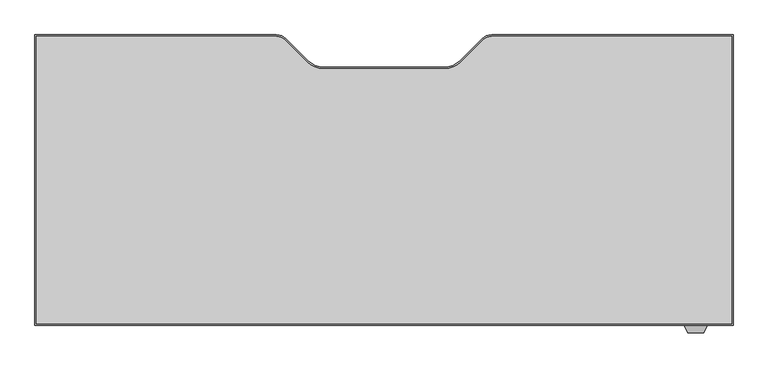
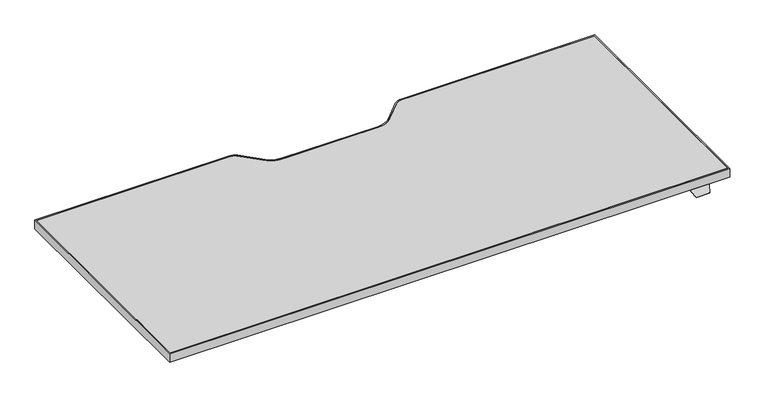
"""IFC4 building model written with IfcOpenShell, lengths in millimetres: furniture geometry, Steelcase Turnstone - Bivi - Height Adjustable Desk - T Base : 25D x 60W."""

from ifc_helpers import new_model, si_unit, point, frame, frame_2d, origin, place, context, project, spatial, polyline, circle_curve, trimmed, segment, composite_curve, outline, extrude, faceted_brep, source, transform, mapped, element, save


def furniture_4d62234e(model_context):
    return source(origin(), model_context, "Body", "SolidModel", [
        faceted_brep([(316.0177913, -415.0301693, 760.9984131), (316.0177913, -412.5074599, 760.9984131), (316.0177913, -412.5074599, 762.4), (316.0177913, -415.0490853, 762.4), (316.0177913, -416.3594921, 761.3004382), (316.0177913, -416.3594921, 759.8829789), (266.4448135, -415.0490853, 762.4), (266.4448135, -412.5074599, 762.4), (266.4448135, -412.5074599, 760.9984131), (266.4448135, -415.0301693, 760.9984131), (266.4448135, -416.3594921, 759.8829789), (266.4448135, -416.3594921, 761.3004382), (309.0358363, -431.3323429, 748.7367246), (273.4267685, -431.3323429, 748.7367246), (273.0673686, -430.5616074, 747.9659891), (309.3952362, -430.5616074, 747.9659891)], [[[0, 1, 2, 3, 4, 5]], [[6, 7, 8, 9, 10, 11]], [[12, 13, 14, 15]], [[9, 0, 5, 15, 14, 10]], [[1, 0, 9, 8]], [[2, 1, 8, 7]], [[3, 2, 7, 6]], [[3, 6, 11, 13, 12, 4]], [[5, 4, 12, 15]], [[11, 10, 14, 13]]]),
        extrude(outline(composite_curve([segment(polyline([(-1151.2285908, 219.9509147), (-623.9070191, 219.9509147)]), True, "CONTINUOUS"), segment(trimmed(circle_curve(frame_2d((-623.9070191, 191.2489147)), 28.702), [point((-623.9070191, 219.9509147))], [point((-603.6116402, 211.5442935))], False, "CARTESIAN"), True, "CONTINUOUS"), segment(polyline([(-603.6116402, 211.5442935), (-556.0972358, 164.0298891)]), True, "CONTINUOUS"), segment(trimmed(circle_curve(frame_2d((-520.1762113, 199.9509136)), 50.8), [point((-556.0972358, 164.0298891))], [point((-520.1762113, 149.1509136))], True, "CARTESIAN"), True, "CONTINUOUS"), segment(polyline([(-520.1762113, 149.1509136), (-258.2809703, 149.1509136)]), True, "CONTINUOUS"), segment(trimmed(circle_curve(frame_2d((-258.2809703, 199.9509136)), 50.8), [point((-258.2809703, 149.1509136))], [point((-222.3599458, 164.0298891))], True, "CARTESIAN"), True, "CONTINUOUS"), segment(polyline([(-222.3599458, 164.0298891), (-174.8455414, 211.5442935)]), True, "CONTINUOUS"), segment(trimmed(circle_curve(frame_2d((-154.5501625, 191.2489147)), 28.702), [point((-174.8455414, 211.5442935))], [point((-154.5501625, 219.9509147))], False, "CARTESIAN"), True, "CONTINUOUS"), segment(polyline([(-154.5501625, 219.9509147), (372.7714092, 219.9509147), (372.7714092, -415.0490853), (-1151.2285908, -415.0490853), (-1151.2285908, 219.9509147)]), True, "CONTINUOUS")], self_intersect=False), holes=[composite_curve([segment(polyline([(-1147.8487543, 216.6489147), (-1147.8487543, -411.7470853), (369.4694092, -411.7470853), (369.4694092, 216.6489147), (-154.5501625, 216.6489147)]), True, "CONTINUOUS"), segment(trimmed(circle_curve(frame_2d((-154.5501625, 191.2489147)), 25.4), [point((-154.5501625, 216.6489147))], [point((-172.5106748, 209.2094269))], True, "CARTESIAN"), True, "CONTINUOUS"), segment(polyline([(-172.5106748, 209.2094269), (-220.527602, 161.1924998)]), True, "CONTINUOUS"), segment(trimmed(circle_curve(frame_2d((-256.4486265, 197.1135242)), 50.8), [point((-220.527602, 161.1924998))], [point((-256.4486265, 146.3135242))], False, "CARTESIAN"), True, "CONTINUOUS"), segment(polyline([(-256.4486265, 146.3135242), (-389.2285908, 146.3135242), (-522.0085552, 146.3135242)]), True, "CONTINUOUS"), segment(trimmed(circle_curve(frame_2d((-522.0085552, 197.1135242)), 50.8), [point((-522.0085552, 146.3135242))], [point((-557.9295796, 161.1924998))], False, "CARTESIAN"), True, "CONTINUOUS"), segment(polyline([(-557.9295796, 161.1924998), (-605.9465068, 209.2094269)]), True, "CONTINUOUS"), segment(trimmed(circle_curve(frame_2d((-623.9070191, 191.2489147)), 25.4), [point((-605.9465068, 209.2094269))], [point((-623.9070191, 216.6489147))], True, "CARTESIAN"), True, "CONTINUOUS"), segment(polyline([(-623.9070191, 216.6489147), (-1147.8487543, 216.6489147)]), True, "CONTINUOUS")], self_intersect=False)]), frame((0.0, 0.0, 762.4), z_axis=(0.0, 0.0, 1.0), x_axis=(1.0, 0.0, 0.0)), (0.0, 0.0, 1.0), 25.0),
        extrude(outline(composite_curve([segment(polyline([(-1147.8487543, 216.6489147), (-623.9070191, 216.6489147)]), True, "CONTINUOUS"), segment(trimmed(circle_curve(frame_2d((-623.9070191, 191.2489147)), 25.4), [point((-623.9070191, 216.6489147))], [point((-605.9465068, 209.2094269))], False, "CARTESIAN"), True, "CONTINUOUS"), segment(polyline([(-605.9465068, 209.2094269), (-557.9295796, 161.1924998)]), True, "CONTINUOUS"), segment(trimmed(circle_curve(frame_2d((-522.0085552, 197.1135242)), 50.8), [point((-557.9295796, 161.1924998))], [point((-522.0085552, 146.3135242))], True, "CARTESIAN"), True, "CONTINUOUS"), segment(polyline([(-522.0085552, 146.3135242), (-389.2285908, 146.3135242), (-256.4486265, 146.3135242)]), True, "CONTINUOUS"), segment(trimmed(circle_curve(frame_2d((-256.4486265, 197.1135242)), 50.8), [point((-256.4486265, 146.3135242))], [point((-220.527602, 161.1924998))], True, "CARTESIAN"), True, "CONTINUOUS"), segment(polyline([(-220.527602, 161.1924998), (-172.5106748, 209.2094269)]), True, "CONTINUOUS"), segment(trimmed(circle_curve(frame_2d((-154.5501625, 191.2489147)), 25.4), [point((-172.5106748, 209.2094269))], [point((-154.5501625, 216.6489147))], False, "CARTESIAN"), True, "CONTINUOUS"), segment(polyline([(-154.5501625, 216.6489147), (369.4694092, 216.6489147), (369.4694092, -411.7470853), (-1147.8487543, -411.7470853), (-1147.8487543, 216.6489147)]), True, "CONTINUOUS")], self_intersect=False)), frame((0.0, 0.0, 762.4), z_axis=(0.0, 0.0, 1.0), x_axis=(1.0, 0.0, 0.0)), (0.0, 0.0, 1.0), 25.0),
    ])


if __name__ == "__main__":
    model = new_model("IFC4")
    model_context = context("Model", 3, world=origin())
    ifc_project = project(units=[si_unit("LENGTHUNIT", "METRE", prefix="MILLI")], contexts=[model_context])
    site = spatial("IfcSite", under=ifc_project)
    building = spatial("IfcBuilding", under=site)
    placement = place(None, origin())
    furniture_shape = furniture_4d62234e(model_context)
    element("IfcFurniture", 1, ObjectType="Steelcase Turnstone - Bivi - Height Adjustable Desk - T Base : 25D x 60W", at=placement, inside=building, context=model_context, shape_type="MappedRepresentation", body=[
        mapped(furniture_shape, transform((0.0, 0.0, 0.0), x_axis=(1.0, 0.0, 0.0), y_axis=(0.0, 1.0, 0.0), z_axis=(0.0, 0.0, 1.0))),
    ])
    save(model, "model.ifc")
